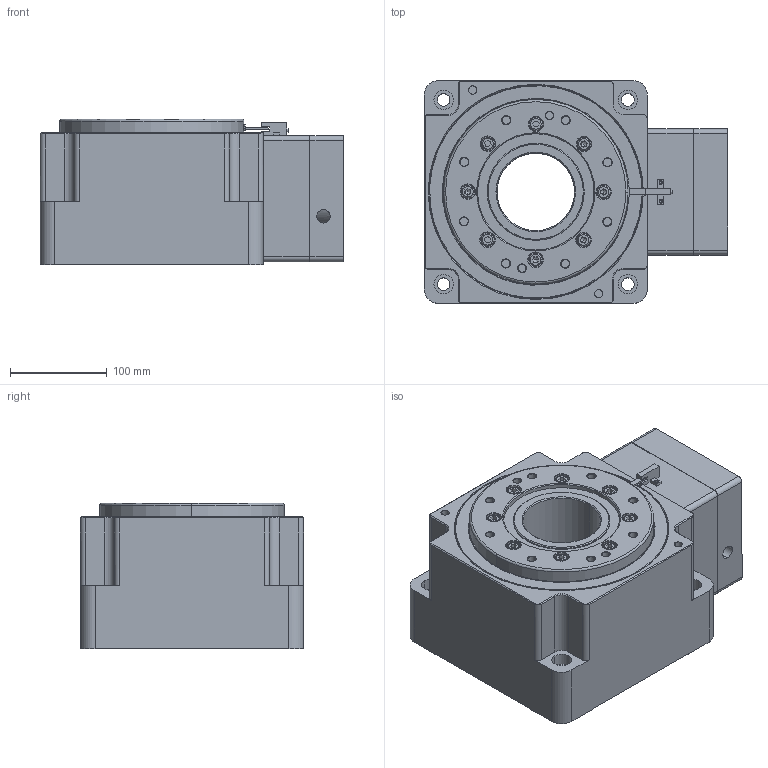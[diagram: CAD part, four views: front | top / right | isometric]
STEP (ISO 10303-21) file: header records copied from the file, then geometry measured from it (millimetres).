
FILE_DESCRIPTION (( 'STEP AP203' ), '1' );
FILE_NAME ('MTR200-10-N.STEP', '2023-10-26T01:29:56', ( 'Microsoft' ), ( 'Microsoft' ), 'SwSTEP 2.0', 'SolidWorks 2019', '' );
FILE_SCHEMA (( 'CONFIG_CONTROL_DESIGN' ));
Length unit declared in the file: millimetre
Products named in the file (1): MTR200-10-N
Bounding box: 313 x 230 x 150 mm (x, y, z)
Surface area: 441020.7 mm2 (no closed solid volume)
Topology: 0 solids, 44 shells, 729 faces, 2426 edges, 1649 vertices
Faces by surface type: plane 272, cylinder 242, cone 123, torus 60, sphere 32
Entity records: 27287 total; most frequent: CARTESIAN_POINT 6799, DIRECTION 4449, ORIENTED_EDGE 3810, EDGE_CURVE 2300, AXIS2_PLACEMENT_3D 1677, VERTEX_POINT 1585, LINE 1095, VECTOR 1095
